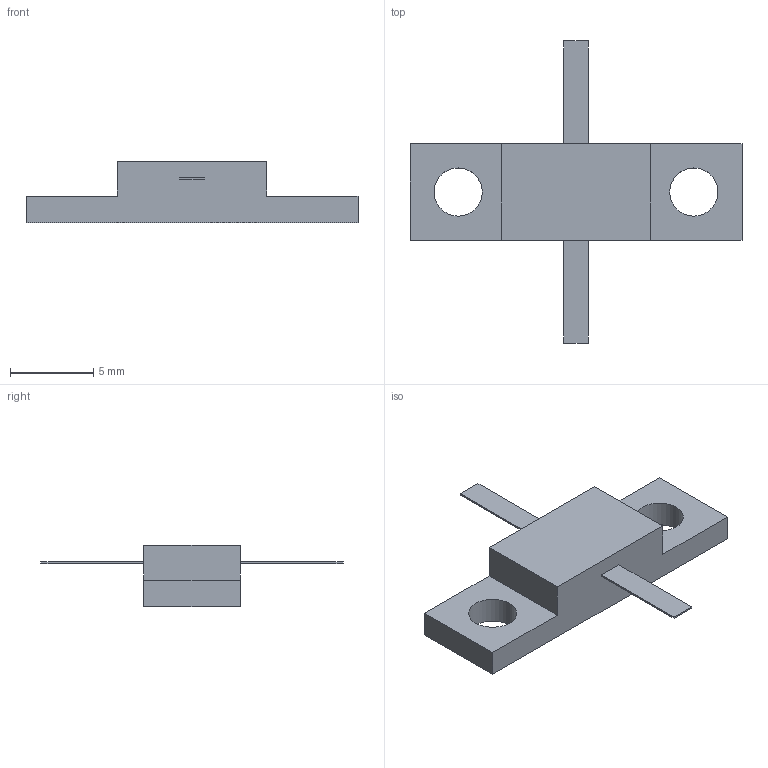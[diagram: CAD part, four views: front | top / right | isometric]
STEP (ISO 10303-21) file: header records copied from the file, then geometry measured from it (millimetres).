
FILE_DESCRIPTION(('STEP AP203'), '1');
FILE_NAME('P1-170-100-23', '', ('UNSPECIFIED'), ('UNSPECIFIED'), 'ASCON STEP Converter 1.6', 'ASCON Math Kernel', '');
FILE_SCHEMA(('CONFIG_CONTROL_DESIGN'));
Length unit declared in the file: millimetre
Bounding box: 20 x 18.2 x 3.7 mm (x, y, z)
Volume: 275.9 mm3; surface area: 419.1 mm2
Topology: 1 solids, 1 shells, 22 faces, 54 edges, 36 vertices
Faces by surface type: plane 20, cylinder 2
Full cylindrical faces by diameter (mm): 2.9 x2
Entity records: 860 total; most frequent: CARTESIAN_POINT 111, ORIENTED_EDGE 104, DIRECTION 102, EDGE_CURVE 52, LINE 48, VECTOR 48, VERTEX_POINT 36, EDGE_LOOP 30
